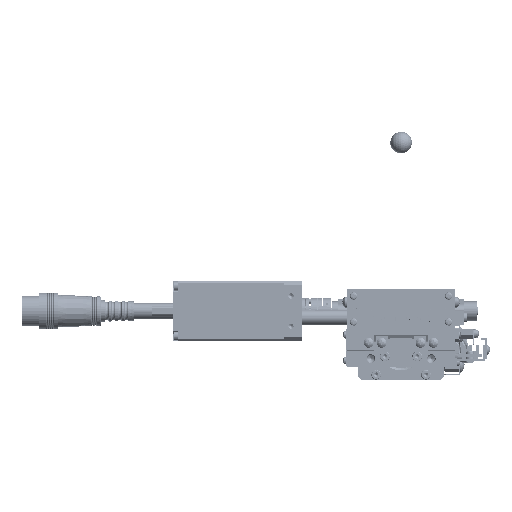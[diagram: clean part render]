
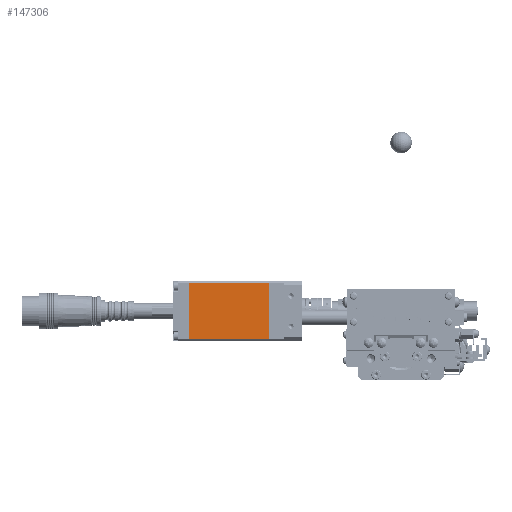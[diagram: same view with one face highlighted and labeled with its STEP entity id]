
A CAD part, left-side view. The second image highlights one B-rep face of the part: STEP entity #147306.
In plain terms, the highlighted planar face has unit normal (-1, 0, 0) as drawn and (0, 1, 0) by its records, which use the part's own axes.
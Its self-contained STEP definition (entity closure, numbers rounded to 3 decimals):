
#964 = LINE ( 'NONE', #92961, #13223 ) ;
#2010 = LINE ( 'NONE', #151561, #97379 ) ;
#3298 = CARTESIAN_POINT ( 'NONE',  ( 62.932, 120.892, 38.845 ) ) ;
#13223 = VECTOR ( 'NONE', #55587, 1000. ) ;
#16737 = VERTEX_POINT ( 'NONE', #3298 ) ;
#19877 = LINE ( 'NONE', #130476, #32038 ) ;
#29701 = VECTOR ( 'NONE', #159829, 1000. ) ;
#30521 = CARTESIAN_POINT ( 'NONE',  ( 107.432, 120.892, 38.845 ) ) ;
#32038 = VECTOR ( 'NONE', #161418, 1000. ) ;
#40890 = EDGE_CURVE ( 'NONE', #117345, #40963, #135085, .T. ) ;
#40963 = VERTEX_POINT ( 'NONE', #60104 ) ;
#48474 = AXIS2_PLACEMENT_3D ( 'NONE', #30521, #67355, #95661 ) ;
#55587 = DIRECTION ( 'NONE',  ( 0., 0., 1. ) ) ;
#60104 = CARTESIAN_POINT ( 'NONE',  ( 62.932, 120.892, 13.155 ) ) ;
#66701 = CARTESIAN_POINT ( 'NONE',  ( 99.922, 120.892, 38.845 ) ) ;
#67355 = DIRECTION ( 'NONE',  ( 0., 1., 0. ) ) ;
#69575 = EDGE_CURVE ( 'NONE', #83514, #16737, #2010, .T. ) ;
#80717 = EDGE_LOOP ( 'NONE', ( #110955, #160337, #130251, #156000 ) ) ;
#83514 = VERTEX_POINT ( 'NONE', #66701 ) ;
#92961 = CARTESIAN_POINT ( 'NONE',  ( 62.932, 120.892, 38.845 ) ) ;
#95661 = DIRECTION ( 'NONE',  ( 0., 0., -1. ) ) ;
#97379 = VECTOR ( 'NONE', #137454, 1000. ) ;
#97444 = FACE_OUTER_BOUND ( 'NONE', #80717, .T. ) ;
#110955 = ORIENTED_EDGE ( 'NONE', *, *, #137410, .F. ) ;
#117345 = VERTEX_POINT ( 'NONE', #155609 ) ;
#127711 = EDGE_CURVE ( 'NONE', #40963, #16737, #964, .T. ) ;
#130251 = ORIENTED_EDGE ( 'NONE', *, *, #127711, .T. ) ;
#130476 = CARTESIAN_POINT ( 'NONE',  ( 99.922, 120.892, 38.845 ) ) ;
#135085 = LINE ( 'NONE', #147866, #29701 ) ;
#137410 = EDGE_CURVE ( 'NONE', #117345, #83514, #19877, .T. ) ;
#137454 = DIRECTION ( 'NONE',  ( -1., 0., 0. ) ) ;
#147306 = ADVANCED_FACE ( 'NONE', ( #97444 ), #159697, .T. ) ;
#147866 = CARTESIAN_POINT ( 'NONE',  ( 107.432, 120.892, 13.155 ) ) ;
#151561 = CARTESIAN_POINT ( 'NONE',  ( 107.432, 120.892, 38.845 ) ) ;
#155609 = CARTESIAN_POINT ( 'NONE',  ( 99.922, 120.892, 13.155 ) ) ;
#156000 = ORIENTED_EDGE ( 'NONE', *, *, #69575, .F. ) ;
#159697 = PLANE ( 'NONE',  #48474 ) ;
#159829 = DIRECTION ( 'NONE',  ( -1., 0., 0. ) ) ;
#160337 = ORIENTED_EDGE ( 'NONE', *, *, #40890, .T. ) ;
#161418 = DIRECTION ( 'NONE',  ( 0., 0., 1. ) ) ;
